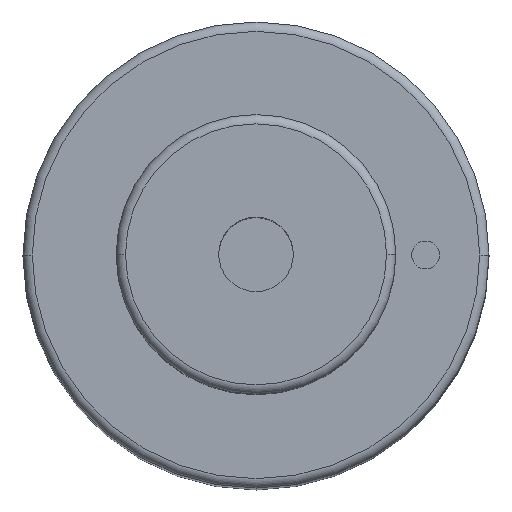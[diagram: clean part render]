
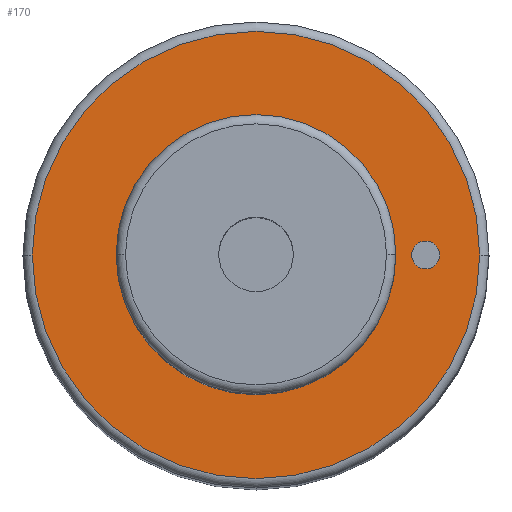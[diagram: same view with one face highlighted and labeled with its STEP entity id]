
A CAD part, top view. The second image highlights one B-rep face of the part: STEP entity #170.
In plain terms, the highlighted planar face has unit normal (0, 0, 1).
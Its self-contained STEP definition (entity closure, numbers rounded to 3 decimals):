
#115=PLANE('',#781);
#129=FACE_BOUND('',#277,.T.);
#130=FACE_BOUND('',#278,.T.);
#131=FACE_BOUND('',#279,.T.);
#170=ADVANCED_FACE('',(#129,#130,#131),#115,.T.);
#277=EDGE_LOOP('',(#483,#484));
#278=EDGE_LOOP('',(#485,#486));
#279=EDGE_LOOP('',(#487,#488));
#295=CIRCLE('',#712,15.);
#296=CIRCLE('',#714,15.);
#300=CIRCLE('',#719,24.);
#301=CIRCLE('',#721,24.);
#331=CIRCLE('',#779,1.5);
#332=CIRCLE('',#780,1.5);
#483=ORIENTED_EDGE('',*,*,#573,.F.);
#484=ORIENTED_EDGE('',*,*,#574,.F.);
#485=ORIENTED_EDGE('',*,*,#626,.F.);
#486=ORIENTED_EDGE('',*,*,#627,.F.);
#487=ORIENTED_EDGE('',*,*,#569,.T.);
#488=ORIENTED_EDGE('',*,*,#567,.T.);
#509=VERTEX_POINT('',#1042);
#510=VERTEX_POINT('',#1044);
#511=VERTEX_POINT('',#1050);
#514=VERTEX_POINT('',#1055);
#546=VERTEX_POINT('',#1170);
#547=VERTEX_POINT('',#1171);
#567=EDGE_CURVE('',#510,#509,#295,.T.);
#569=EDGE_CURVE('',#509,#510,#296,.T.);
#573=EDGE_CURVE('',#514,#511,#300,.T.);
#574=EDGE_CURVE('',#511,#514,#301,.T.);
#626=EDGE_CURVE('',#546,#547,#331,.T.);
#627=EDGE_CURVE('',#547,#546,#332,.T.);
#712=AXIS2_PLACEMENT_3D('',#1043,#832,#833);
#714=AXIS2_PLACEMENT_3D('',#1047,#837,#838);
#719=AXIS2_PLACEMENT_3D('',#1056,#847,#848);
#721=AXIS2_PLACEMENT_3D('',#1058,#851,#852);
#779=AXIS2_PLACEMENT_3D('',#1169,#989,#990);
#780=AXIS2_PLACEMENT_3D('',#1172,#991,#992);
#781=AXIS2_PLACEMENT_3D('',#1173,#993,#994);
#832=DIRECTION('',(0.,0.,-1.));
#833=DIRECTION('',(0.,1.,0.));
#837=DIRECTION('',(0.,0.,-1.));
#838=DIRECTION('',(0.,-1.,0.));
#847=DIRECTION('',(0.,0.,-1.));
#848=DIRECTION('',(0.,1.,0.));
#851=DIRECTION('',(0.,0.,-1.));
#852=DIRECTION('',(0.,-1.,0.));
#989=DIRECTION('',(0.,0.,1.));
#990=DIRECTION('',(0.,1.,0.));
#991=DIRECTION('',(0.,0.,1.));
#992=DIRECTION('',(0.,-1.,0.));
#993=DIRECTION('',(0.,0.,1.));
#994=DIRECTION('',(0.,-1.,0.));
#1042=CARTESIAN_POINT('',(-15.,0.,122.));
#1043=CARTESIAN_POINT('',(0.,0.,122.));
#1044=CARTESIAN_POINT('',(15.,0.,122.));
#1047=CARTESIAN_POINT('',(0.,0.,122.));
#1050=CARTESIAN_POINT('',(-24.,0.,122.));
#1055=CARTESIAN_POINT('',(24.,0.,122.));
#1056=CARTESIAN_POINT('',(0.,0.,122.));
#1058=CARTESIAN_POINT('',(0.,0.,122.));
#1169=CARTESIAN_POINT('',(18.2,0.,122.));
#1170=CARTESIAN_POINT('',(16.7,0.,122.));
#1171=CARTESIAN_POINT('',(19.7,0.,122.));
#1172=CARTESIAN_POINT('',(18.2,0.,122.));
#1173=CARTESIAN_POINT('',(0.,0.,122.));
